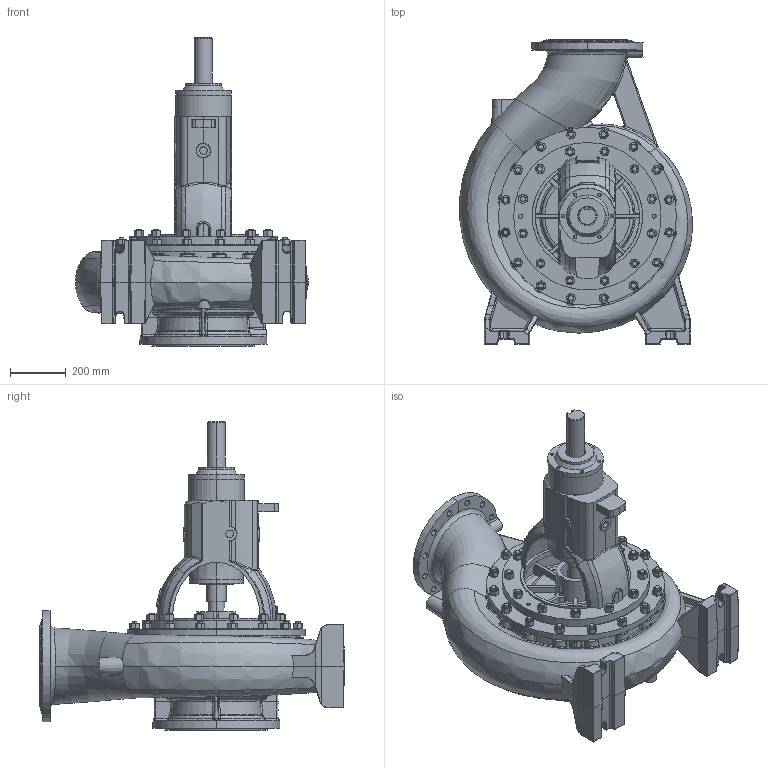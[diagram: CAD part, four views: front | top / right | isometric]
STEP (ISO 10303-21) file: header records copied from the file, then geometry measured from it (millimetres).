
FILE_DESCRIPTION (( 'STEP AP203' ), '1' );
FILE_NAME ('NM 250-500.STEP', '2016-11-16T12:17:57', ( '' ), ( '' ), 'SwSTEP 2.0', 'SolidWorks 2015', '' );
FILE_SCHEMA (( 'CONFIG_CONTROL_DESIGN' ));
Length unit declared in the file: millimetre
Products named in the file (9): hex nut style 2 gradeab_din_Hexagon Nut ISO 4033 - M20 - W - N; NM 250-500; NM E GRUBU M尳; NM E GRUBU RUL.YATAGI SIVI YAGLI(burak)_GOBEK MACASI; NM E ÝÇ RULMAN KAPAÐI; NM E DIÞ RULMAN KAPAÐI; E 12 SALMASTRA KUTUSU; NM E DÖNER GRUP MONTAJI
Assembly tree (35 placements, depth 3):
  NM 250-500
    NM E DÖNER GRUP MONTAJI
      NM E GRUBU M尳
      NM E GRUBU RUL.YATAGI SIVI YAGLI(burak)_GOBEK MACASI
      NM E ÝÇ RULMAN KAPAÐI
      NM E DIÞ RULMAN KAPAÐI
      E 12 SALMASTRA KUTUSU
    hex nut style 2 gradeab_din_Hexagon Nut ISO 4033 - M20 - W - N  x28
    NM 250-500
Bounding box: 837.97 x 1095.43 x 1108.54 mm (x, y, z)
Volume: 67655180.9 mm3; surface area: 7451835.5 mm2
Topology: 46 solids, 46 shells, 3015 faces, 7301 edges, 4439 vertices
Faces by surface type: plane 835, cylinder 731, cone 623, bspline 518, torus 272, sphere 36
Entity records: 249485 total; most frequent: CARTESIAN_POINT 199451, ORIENTED_EDGE 11138, DIRECTION 8871, EDGE_CURVE 5569, AXIS2_PLACEMENT_3D 3761, VERTEX_POINT 3467, EDGE_LOOP 2438, ADVANCED_FACE 2205
